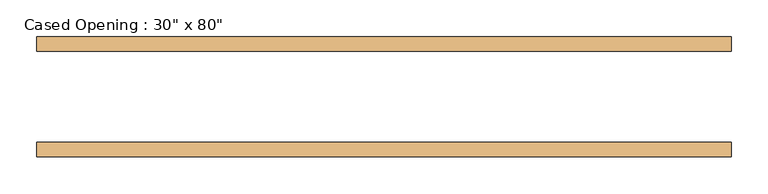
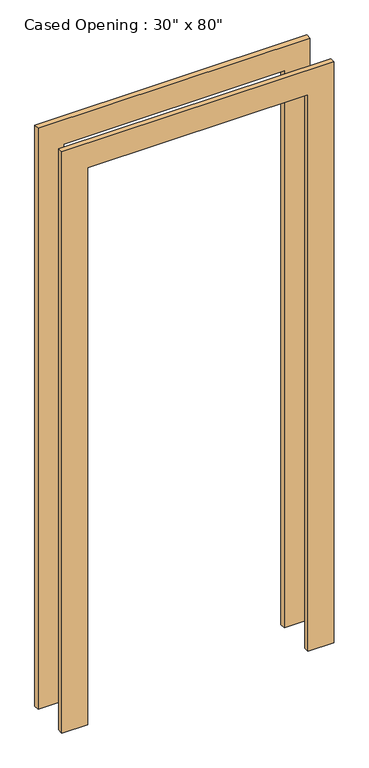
"""IFC4 building model written with IfcOpenShell, lengths in millimetres: door geometry."""

from ifc_helpers import new_model, si_unit, frame, origin, place, context, project, spatial, polyline, outline, extrude, source, transform, mapped, element, save


def door_1d05c9dd(model_context):
    return source(origin(), model_context, "Body", "SweptSolid", [
        extrude(outline(polyline([(2120.9, -469.9), (0.0, -469.9), (0.0, -381.0), (2032.0, -381.0), (2032.0, 381.0), (0.0, 381.0), (0.0, 469.9), (2120.9, 469.9), (2120.9, -469.9)])), frame((0.0, 61.9125, 0.0), z_axis=(0.0, 1.0, 0.0), x_axis=(0.0, 0.0, 1.0)), (0.0, 0.0, 1.0), 19.05),
        extrude(outline(polyline([(0.0, -469.9), (0.0, -381.0), (2032.0, -381.0), (2032.0, 381.0), (0.0, 381.0), (0.0, 469.9), (2120.9, 469.9), (2120.9, -469.9), (0.0, -469.9)])), frame((0.0, -80.9625, 0.0), z_axis=(0.0, 1.0, 0.0), x_axis=(0.0, 0.0, 1.0)), (0.0, 0.0, 1.0), 19.05),
    ])


if __name__ == "__main__":
    model = new_model("IFC4")
    model_context = context("Model", 3, world=origin())
    ifc_project = project(units=[si_unit("LENGTHUNIT", "METRE", prefix="MILLI")], contexts=[model_context])
    site = spatial("IfcSite", under=ifc_project)
    building = spatial("IfcBuilding", under=site)
    placement = place(None, origin())
    door_shape = door_1d05c9dd(model_context)
    element("IfcDoor", 1, ObjectType="Cased Opening : 30\" x 80\"", at=placement, inside=building, context=model_context, shape_type="MappedRepresentation", body=[
        mapped(door_shape, transform((0.0, 0.0, 0.0), x_axis=(1.0, 0.0, 0.0), y_axis=(0.0, 1.0, 0.0), z_axis=(0.0, 0.0, 1.0))),
    ])
    save(model, "model.ifc")
